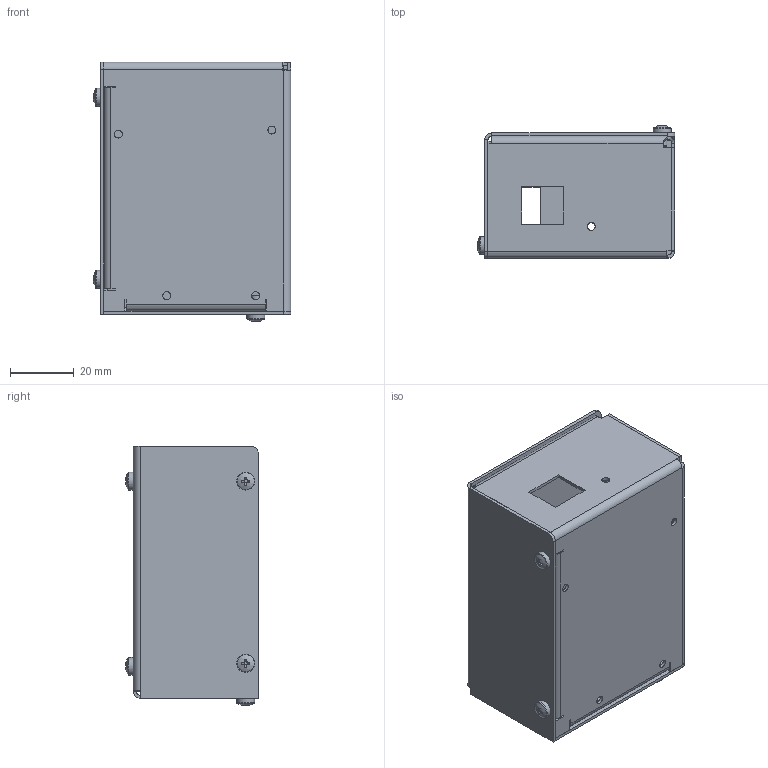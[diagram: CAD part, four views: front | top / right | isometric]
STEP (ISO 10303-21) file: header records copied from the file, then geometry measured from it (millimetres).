
FILE_DESCRIPTION(/* description */ (''),/* implementation_level */ '2;1');
FILE_NAME(/* name */ 'Controller-enclosure-v2.step',/* time_stamp */ '2022-12-09T17:29:21-08:00',/* author */ (''),/* organization */ (''),/* preprocessor_version */ 'ST-DEVELOPER v19.2',/* originating_system */ 'Autodesk Translation Framework v11.17.0.187',/* authorisation */ '');
FILE_SCHEMA (('AUTOMOTIVE_DESIGN { 1 0 10303 214 3 1 1 }'));
Length unit declared in the file: millimetre
Products named in the file (5): Controller-enclosure-v1_edit01-v6; ¤U®y; ¤W»; pan head cross recess screw_iso_ISO 7045 - M3 x 4 - Z - 4N; pan head cross recess screw_iso_ISO 7045 - M3 x 6 - Z - 6N
Assembly tree (7 placements, depth 2):
  Controller-enclosure-v1_edit01-v6
    ¤U®y
    ¤W»
    pan head cross recess screw_iso_ISO 7045 - M3 x 4 - Z - 4N  x2
    pan head cross recess screw_iso_ISO 7045 - M3 x 6 - Z - 6N  x3
Bounding box: 62.06 x 41.68 x 81.52 mm (x, y, z)
Volume: 19084.8 mm3; surface area: 40884.5 mm2
Topology: 7 solids, 7 shells, 323 faces, 762 edges, 458 vertices
Faces by surface type: plane 216, cylinder 45, cone 45, torus 10, sphere 5, bspline 2
Full cylindrical faces by diameter (mm): 2.5 x11, 3 x5, 3.2 x5, 5.6 x5
Entity records: 6483 total; most frequent: CARTESIAN_POINT 1192, DIRECTION 1103, ORIENTED_EDGE 1034, EDGE_CURVE 517, AXIS2_PLACEMENT_3D 381, LINE 341, VECTOR 341, VERTEX_POINT 314
